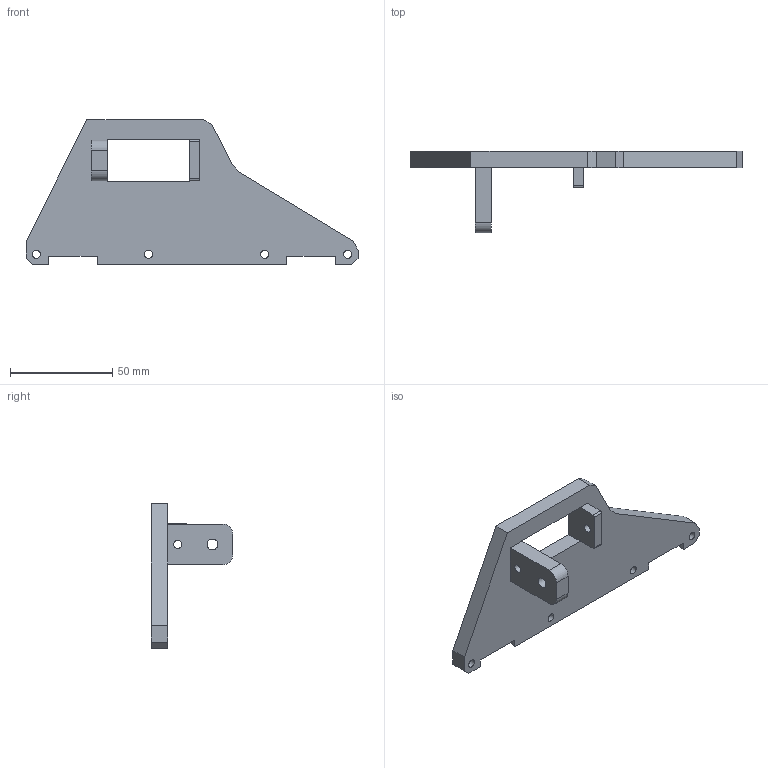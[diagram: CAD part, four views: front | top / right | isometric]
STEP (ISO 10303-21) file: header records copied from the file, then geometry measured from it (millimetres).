
FILE_DESCRIPTION(/* description */ (''),/* implementation_level */ '2;1');
FILE_NAME(/* name */ 'Base Bottom.step',/* time_stamp */ '2025-04-22T12:36:34+05:30',/* author */ (''),/* organization */ (''),/* preprocessor_version */ 'ST-DEVELOPER v20.1',/* originating_system */ 'Autodesk Translation Framework v14.4.0.0',/* authorisation */ '');
FILE_SCHEMA (('AUTOMOTIVE_DESIGN { 1 0 10303 214 3 1 1 }'));
Length unit declared in the file: millimetre
Products named in the file (1): Base Bottom
Bounding box: 162.65 x 40 x 70.92 mm (x, y, z)
Volume: 60194.6 mm3; surface area: 21116.9 mm2
Topology: 1 solids, 1 shells, 49 faces, 134 edges, 89 vertices
Faces by surface type: plane 32, cylinder 17
Full cylindrical faces by diameter (mm): 3.7 x2, 4 x6, 5.3 x1
Entity records: 1626 total; most frequent: CARTESIAN_POINT 273, ORIENTED_EDGE 268, DIRECTION 268, EDGE_CURVE 134, LINE 100, VECTOR 100, VERTEX_POINT 89, AXIS2_PLACEMENT_3D 84
